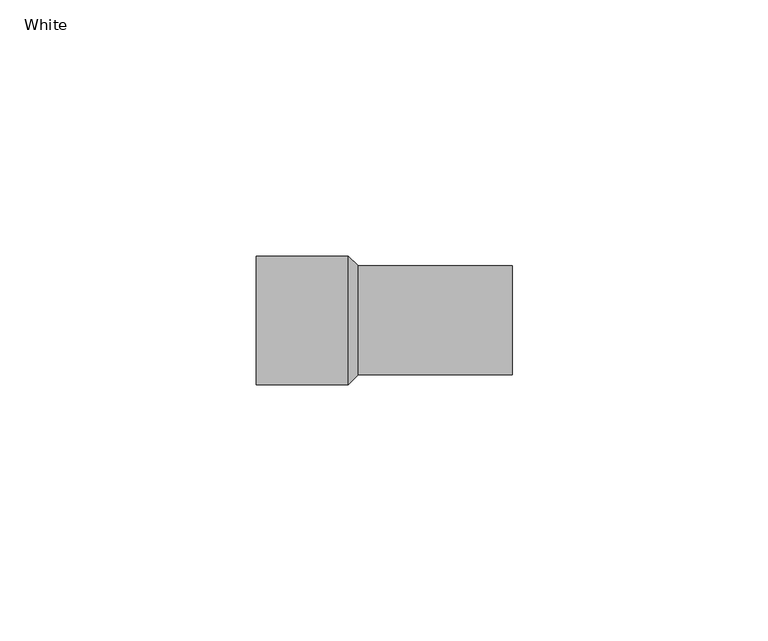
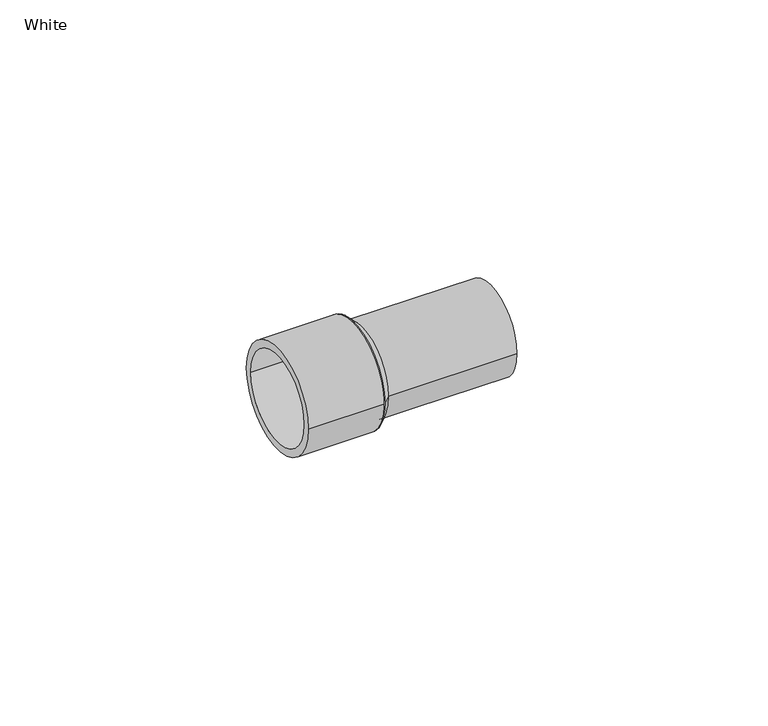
"""IFC4 building model written with IfcOpenShell, lengths in millimetres: pipe fitting geometry, Wavin_PipeFitting_OsmaOverflowZDoNotUseAbsAdaptorStraight : White."""

from ifc_helpers import new_model, si_unit, point, frame, origin, origin_2d, place, context, project, spatial, polyline, circle_curve, trimmed, segment, composite_curve, outline, extrude, source, transform, mapped, element, save
from ifc_brep_helpers import plane_surface, cylinder_surface, revolved_surface, advanced_brep


def white_86f571b3(model_context):
    return source(origin(), model_context, "Body", "SolidModel", [
        advanced_brep(
        [(16.0, 10.65, 0.0), (16.0, -10.65, 0.0), (-14.0, -10.65, 0.0), (-14.0, 10.65, 0.0), (-16.0, -12.55, 0.0), (-16.0, 12.55, 0.0)],
        [
            (0, 1, circle_curve(frame((16.0, 0.0, 0.0), z_axis=(1.0, 0.0, 0.0), x_axis=(0.0, 0.0, 1.0)), 10.65)),
            (1, 0, circle_curve(frame((16.0, 0.0, 0.0), z_axis=(1.0, 0.0, 0.0), x_axis=(0.0, 0.0, -1.0)), 10.65)),
            (1, 2),
            (2, 3, circle_curve(frame((-14.0, 0.0, 0.0), z_axis=(1.0, 0.0, 0.0), x_axis=(0.0, 0.0, -1.0)), 10.65)),
            (3, 0),
            (3, 2, circle_curve(frame((-14.0, 0.0, 0.0), z_axis=(1.0, 0.0, 0.0), x_axis=(0.0, 0.0, 1.0)), 10.65)),
            (4, 5, circle_curve(frame((-16.0, 0.0, 0.0), z_axis=(-1.0, 0.0, 0.0), x_axis=(0.0, 1.0, 0.0)), 12.55)),
            (5, 4, circle_curve(frame((-16.0, 0.0, 0.0), z_axis=(-1.0, 0.0, 0.0), x_axis=(0.0, -1.0, 0.0)), 12.55)),
            (5, 3),
            (2, 4),
        ],
        [
            plane_surface(frame((16.0, 0.0, 0.0), z_axis=(1.0, 0.0, 0.0), x_axis=(0.0, 0.0, -1.0))),
            cylinder_surface(frame((16.0, 0.0, 0.0), z_axis=(-1.0, 0.0, 0.0), x_axis=(0.0, 0.0, -1.0)), 10.65),
            cylinder_surface(frame((16.0, 0.0, 0.0), z_axis=(-1.0, 0.0, 0.0), x_axis=(0.0, 0.0, 1.0)), 10.65),
            plane_surface(frame((-16.0, 0.0, 0.0), z_axis=(-1.0, 0.0, 0.0), x_axis=(0.0, 0.0, -1.0))),
            revolved_surface(polyline([(-14.0, -10.649999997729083, 0.0), (-16.0, -12.55, 0.0)]), (-2.7894737, 0.0, 0.0), (-1.0, 0.0, 0.0)),
            revolved_surface(polyline([(-14.0, 10.649999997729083, 0.0), (-16.0, 12.55, 0.0)]), (-2.7894737, 0.0, 0.0), (-1.0, 0.0, 0.0)),
        ],
        [
            (0, [[1, 2]]),
            (1, [[-2, 3, 4, 5]]),
            (2, [[-1, -5, 6, -3]]),
            (3, [[7, 8]]),
            (4, [[-8, 9, -4, 10]]),
            (5, [[-7, -10, -6, -9]]),
        ],
    ),
        extrude(outline(composite_curve([segment(trimmed(circle_curve(origin_2d(), 12.55), [point((-12.55, 0.0))], [point((12.55, 0.0))], False, "CARTESIAN"), True, "CONTINUOUS"), segment(trimmed(circle_curve(origin_2d(), 12.55), [point((12.55, 0.0))], [point((-12.55, 0.0))], False, "CARTESIAN"), True, "CONTINUOUS")], self_intersect=False), holes=[composite_curve([segment(trimmed(circle_curve(origin_2d(), 10.75), [point((-10.75, 0.0))], [point((10.75, 0.0))], True, "CARTESIAN"), True, "CONTINUOUS"), segment(trimmed(circle_curve(origin_2d(), 10.75), [point((10.75, 0.0))], [point((-10.75, 0.0))], True, "CARTESIAN"), True, "CONTINUOUS")], self_intersect=False)]), frame((-34.0, 0.0, 0.0), z_axis=(1.0, 0.0, 0.0), x_axis=(0.0, 1.0, 0.0)), (0.0, 0.0, 1.0), 18.0),
    ])


if __name__ == "__main__":
    model = new_model("IFC4")
    model_context = context("Model", 3, world=origin())
    ifc_project = project(units=[si_unit("LENGTHUNIT", "METRE", prefix="MILLI")], contexts=[model_context])
    site = spatial("IfcSite", under=ifc_project)
    building = spatial("IfcBuilding", under=site)
    placement = place(None, origin())
    white_shape = white_86f571b3(model_context)
    element("IfcPipeFitting", 1, ObjectType="Wavin_PipeFitting_OsmaOverflowZDoNotUseAbsAdaptorStraight : White", at=placement, inside=building, context=model_context, shape_type="MappedRepresentation", body=[
        mapped(white_shape, transform((0.0, 0.0, 0.0), x_axis=(1.0, 0.0, 0.0), y_axis=(0.0, 1.0, 0.0), z_axis=(0.0, 0.0, 1.0))),
    ])
    save(model, "model.ifc")
